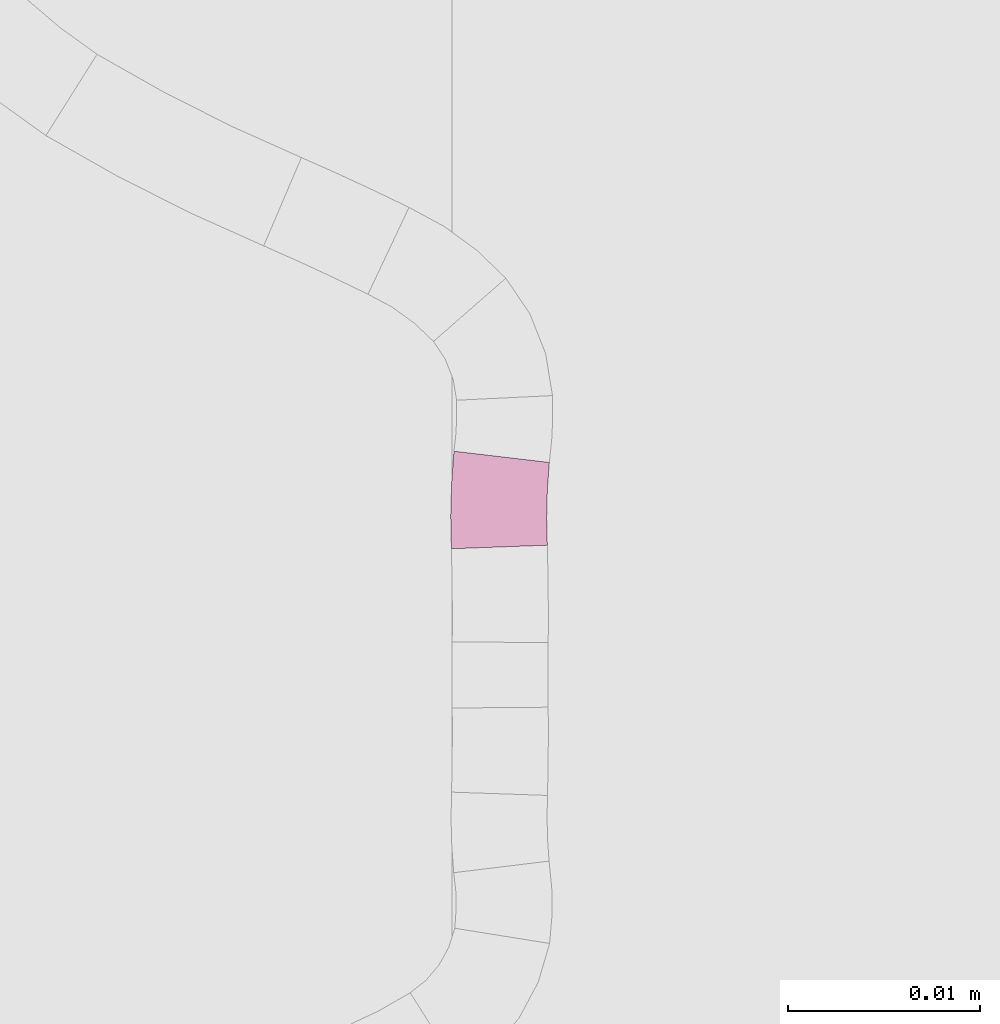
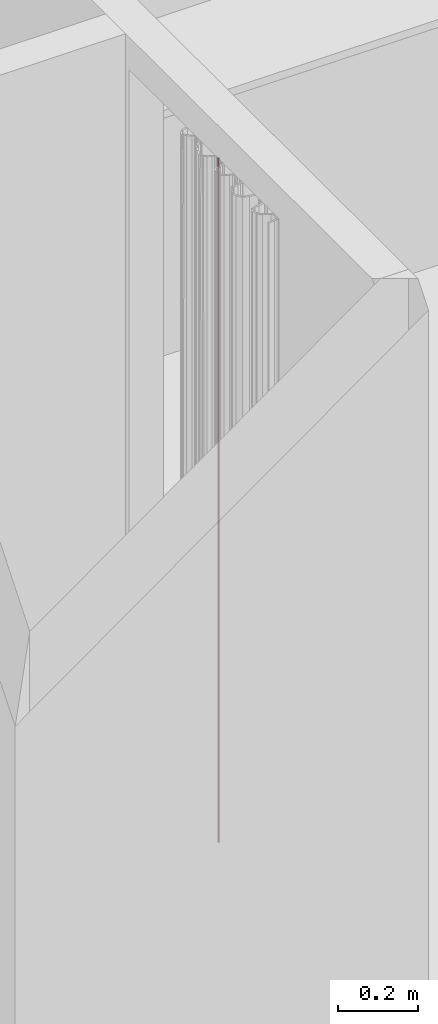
# One storey, part 283 of 418: 1 furnishing.
"""IFC2X3 building model written with IfcOpenShell, lengths in millimetres."""

from ifc_helpers import new_model, entity, si_unit, converted_unit, derived_unit, money_unit, point, direction, frame, frame_2d, origin_with_axes, place, context, subcontext, project, spatial, polyline, circle_curve, parameter, trimmed, segment, composite_curve, outline, extrude, material, type_object, element, save


model = new_model("IFC2X3")

# Units and contexts
model_context = context("Model", 3, precision=0.01, world=origin_with_axes(), true_north=direction((0.0, 1.0)))
body_context = subcontext(model_context, "Body", "Model", "MODEL_VIEW")
ifc_project = project(units=[si_unit("LENGTHUNIT", "METRE", prefix="MILLI"), si_unit("AREAUNIT", "SQUARE_METRE"), si_unit("VOLUMEUNIT", "CUBIC_METRE"), converted_unit("PLANEANGLEUNIT", "DEGREE", entity("IfcPlaneAngleMeasure", 0.0174532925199), si_unit("PLANEANGLEUNIT", "RADIAN"), dimensions=[0, 0, 0, 0, 0, 0, 0]), si_unit("SOLIDANGLEUNIT", "STERADIAN"), money_unit("EUR"), converted_unit("TIMEUNIT", "Year", entity("IfcTimeMeasure", 31556926.0), si_unit("TIMEUNIT", "SECOND"), dimensions=[0, 0, 1, 0, 0, 0, 0]), si_unit("MASSUNIT", "GRAM", prefix="KILO"), si_unit("THERMODYNAMICTEMPERATUREUNIT", "DEGREE_CELSIUS"), si_unit("LUMINOUSINTENSITYUNIT", "LUMEN"), si_unit("ENERGYUNIT", "JOULE", prefix="MEGA"), derived_unit("THERMALCONDUCTANCEUNIT", [(si_unit("POWERUNIT", "WATT"), 1), (si_unit("LENGTHUNIT", "METRE"), -1), (si_unit("THERMODYNAMICTEMPERATUREUNIT", "KELVIN"), -1)]), derived_unit("SPECIFICHEATCAPACITYUNIT", [(si_unit("ENERGYUNIT", "JOULE"), 1), (si_unit("MASSUNIT", "GRAM", prefix="KILO"), -1), (si_unit("THERMODYNAMICTEMPERATUREUNIT", "KELVIN"), -1)]), derived_unit("MASSDENSITYUNIT", [(si_unit("MASSUNIT", "GRAM", prefix="KILO"), 1), (si_unit("VOLUMEUNIT", "CUBIC_METRE"), -1)])], contexts=[model_context])

# Site, building, storey
site_placement = place(None, origin_with_axes())
site = spatial("IfcSite", under=ifc_project, at=site_placement, Name="Paldiski mnt 245/1, Tallinn, Harjumaa", CompositionType="COMPLEX")
building_placement = place(site_placement, origin_with_axes())
building = spatial("IfcBuilding", under=site, at=building_placement, Name="RKAS Hoone üldnimetus (kasutust iseloomustav) -> IFC Project Manager -> SOLIBRI", CompositionType="ELEMENT")
storey_placement = place(building_placement, origin_with_axes())
storey = spatial("IfcBuildingStorey", under=building, at=storey_placement, Name="Esimene korrus", CompositionType="ELEMENT", Elevation=0.0)

# Furnishing
ifc_material = material(Name="KON-00_GENEERILINE - KONSTRUKTSIOON")
furniture_type = type_object("IfcFurnitureType", Name="KON-00_GENEERILINE - KONSTRUKTSIOON 5", AssemblyPlace="NOTDEFINED")
furnishing_placement = place(storey_placement, frame((-44022.2974105, -2022.24820184, 0.0), z_axis=(0.0, 0.0, 1.0), x_axis=(-0.0974617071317, -0.995239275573, 0.0)))
element("IfcFurnishingElement", 1, at=furnishing_placement, inside=storey, type_object=furniture_type, material=ifc_material, Name="SS-98", context=body_context, shape_type="SweptSolid", body=[
    extrude(outline(composite_curve([segment(trimmed(circle_curve(frame_2d((0.0, 35.6574601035), x_axis=(0.0, -1.0)), 35.6574601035), [point((0.0, 0.0)), parameter(0.0)], [point((5.07019706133, 0.362310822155)), parameter(8.17469394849)], True, "CARTESIAN"), True, "CONTINUOUS"), segment(polyline([(5.07019706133, 0.362310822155), (4.39889174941, 5.3172291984)]), True, "CONTINUOUS"), segment(trimmed(circle_curve(frame_2d((0.0, 35.6574601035), x_axis=(0.00321378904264, -0.999994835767)), 30.6574601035), [point((4.39889174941, 5.3172291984)), parameter(8.06543335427)], [point((0.0985266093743, 5.00015832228)), parameter(0.0)], False, "CARTESIAN"), True, "CONTINUOUS"), segment(polyline([(0.0985266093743, 5.00015832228), (0.0, 0.0)]), True, "CONTINUOUS")], self_intersect=False)), origin_with_axes(), (0.0, 0.0, 1.0), 2100.0),
])

save(model, "model.ifc")
